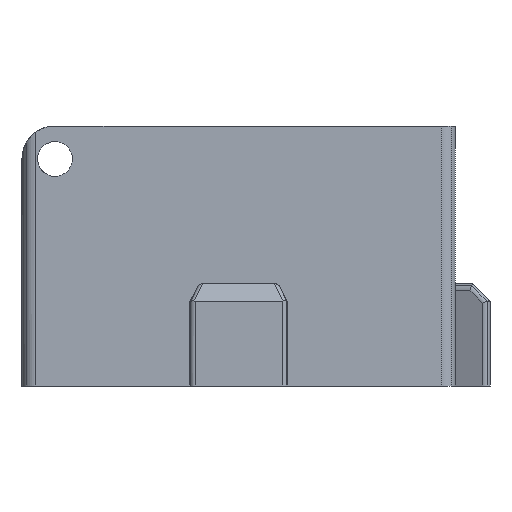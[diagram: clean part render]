
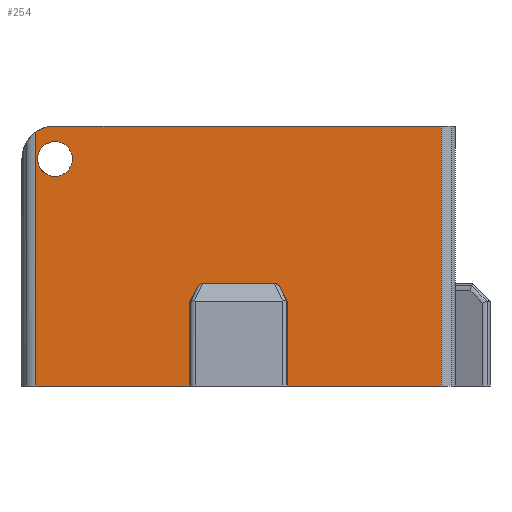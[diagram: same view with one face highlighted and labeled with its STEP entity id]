
A CAD part, front view. The second image highlights one B-rep face of the part: STEP entity #254.
In plain terms, the highlighted planar face has unit normal (0, -1, 0).
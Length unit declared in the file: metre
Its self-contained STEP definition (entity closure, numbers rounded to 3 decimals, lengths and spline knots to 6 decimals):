
#254=ADVANCED_FACE('28:75',(#719,#720),#721,.T.);
#719=FACE_OUTER_BOUND('',#1277,.T.);
#720=FACE_BOUND('',#1278,.T.);
#721=PLANE('',#1279);
#1277=EDGE_LOOP('',(#3041,#3042,#3043,#3044,#3045,#3046,#3047,#3048,#3049,#3050,#3051,#3052,#3053));
#1278=EDGE_LOOP('',(#3054,#3055));
#1279=AXIS2_PLACEMENT_3D('',#3056,#3057,#3058);
#3041=ORIENTED_EDGE('',*,*,#4270,.F.);
#3042=ORIENTED_EDGE('',*,*,#4357,.T.);
#3043=ORIENTED_EDGE('',*,*,#4358,.T.);
#3044=ORIENTED_EDGE('',*,*,#3818,.F.);
#3045=ORIENTED_EDGE('',*,*,#4296,.T.);
#3046=ORIENTED_EDGE('',*,*,#4264,.T.);
#3047=ORIENTED_EDGE('',*,*,#3832,.F.);
#3048=ORIENTED_EDGE('',*,*,#4359,.T.);
#3049=ORIENTED_EDGE('',*,*,#4349,.T.);
#3050=ORIENTED_EDGE('',*,*,#3914,.F.);
#3051=ORIENTED_EDGE('',*,*,#4263,.F.);
#3052=ORIENTED_EDGE('',*,*,#4262,.T.);
#3053=ORIENTED_EDGE('',*,*,#3908,.F.);
#3054=ORIENTED_EDGE('',*,*,#3920,.F.);
#3055=ORIENTED_EDGE('',*,*,#4259,.F.);
#3056=CARTESIAN_POINT('',(0.0,-0.03,0.0));
#3057=DIRECTION('',(0.0,-1.0,0.0));
#3058=DIRECTION('',(1.0,0.0,0.0));
#3818=EDGE_CURVE('28:609',#4689,#4691,#4692,.T.);
#3832=EDGE_CURVE('28:618',#4717,#4719,#4720,.T.);
#3908=EDGE_CURVE('28:600',#4865,#4868,#4869,.F.);
#3914=EDGE_CURVE('28:561',#4877,#4880,#4881,.F.);
#3920=EDGE_CURVE('28:627',#4890,#4886,#4892,.F.);
#4259=EDGE_CURVE('28:627',#4886,#4890,#5445,.F.);
#4262=EDGE_CURVE('28:573',#5447,#4868,#5449,.F.);
#4263=EDGE_CURVE('28:561',#5447,#4877,#5450,.F.);
#4264=EDGE_CURVE('28:615',#5451,#4719,#5452,.T.);
#4270=EDGE_CURVE('28:600',#5460,#4865,#5462,.F.);
#4296=EDGE_CURVE('28:612',#4689,#5451,#5498,.F.);
#4349=EDGE_CURVE('28:624',#5572,#4880,#5573,.T.);
#4357=EDGE_CURVE('28:603',#5460,#5582,#5584,.T.);
#4358=EDGE_CURVE('28:606',#5582,#4691,#5585,.T.);
#4359=EDGE_CURVE('28:621',#4717,#5572,#5586,.T.);
#4689=VERTEX_POINT('',#5983);
#4691=VERTEX_POINT('',#5985);
#4692=LINE('',#5986,#5987);
#4717=VERTEX_POINT('',#6017);
#4719=VERTEX_POINT('',#6019);
#4720=LINE('',#6020,#6021);
#4865=VERTEX_POINT('',#6314);
#4868=VERTEX_POINT('',#6318);
#4869=ELLIPSE('',#6319,0.000447,0.0004);
#4877=VERTEX_POINT('',#6340);
#4880=VERTEX_POINT('',#6344);
#4881=ELLIPSE('',#6345,0.000447,0.0004);
#4886=VERTEX_POINT('',#6360);
#4890=VERTEX_POINT('',#6365);
#4892=CIRCLE('',#6368,0.001);
#5445=CIRCLE('',#7321,0.001);
#5447=VERTEX_POINT('',#7323);
#5449=LINE('',#7326,#7327);
#5450=ELLIPSE('',#7328,0.000447,0.0004);
#5451=VERTEX_POINT('',#7329);
#5452=CIRCLE('',#7330,0.0019);
#5460=VERTEX_POINT('',#7373);
#5462=ELLIPSE('',#7376,0.000447,0.0004);
#5498=LINE('',#7433,#7434);
#5572=VERTEX_POINT('',#7548);
#5573=LINE('',#7549,#7550);
#5582=VERTEX_POINT('',#7563);
#5584=LINE('',#7566,#7567);
#5585=LINE('',#7568,#7569);
#5586=LINE('',#7570,#7571);
#5983=CARTESIAN_POINT('',(0.0117,-0.03,0.015));
#5985=CARTESIAN_POINT('',(0.0117,-0.03,0.0));
#5986=CARTESIAN_POINT('',(0.0117,-0.03,0.0));
#5987=VECTOR('',#8103,1.0);
#6017=CARTESIAN_POINT('',(-0.0117,-0.03,0.0));
#6019=CARTESIAN_POINT('',(-0.0117,-0.03,0.014649));
#6020=CARTESIAN_POINT('',(-0.0117,-0.03,0.0));
#6021=VECTOR('',#8133,1.0);
#6314=CARTESIAN_POINT('',(0.001869,-0.03,0.005783));
#6318=CARTESIAN_POINT('',(0.001553,-0.03,0.0059));
#6319=AXIS2_PLACEMENT_3D('',#8259,#8260,#8261);
#6340=CARTESIAN_POINT('',(-0.001869,-0.03,0.005783));
#6344=CARTESIAN_POINT('',(-0.002,-0.03,0.0055));
#6345=AXIS2_PLACEMENT_3D('',#8267,#8268,#8269);
#6360=CARTESIAN_POINT('',(-0.0116,-0.03,0.0131));
#6365=CARTESIAN_POINT('',(-0.0096,-0.03,0.0131));
#6368=AXIS2_PLACEMENT_3D('',#8276,#8277,#8278);
#7321=AXIS2_PLACEMENT_3D('',#8868,#8869,#8870);
#7323=CARTESIAN_POINT('',(-0.001553,-0.03,0.0059));
#7326=CARTESIAN_POINT('',(0.0,-0.03,0.0059));
#7327=VECTOR('',#8875,1.0);
#7328=AXIS2_PLACEMENT_3D('',#8876,#8877,#8878);
#7329=CARTESIAN_POINT('',(-0.0106,-0.03,0.015));
#7330=AXIS2_PLACEMENT_3D('',#8879,#8880,#8881);
#7373=CARTESIAN_POINT('',(0.002,-0.03,0.0055));
#7376=AXIS2_PLACEMENT_3D('',#8888,#8889,#8890);
#7433=CARTESIAN_POINT('',(0.0,-0.03,0.015));
#7434=VECTOR('',#8933,1.0);
#7548=CARTESIAN_POINT('',(-0.002,-0.03,0.0));
#7549=CARTESIAN_POINT('',(-0.002,-0.03,0.0));
#7550=VECTOR('',#9010,1.0);
#7563=CARTESIAN_POINT('',(0.002,-0.03,0.0));
#7566=CARTESIAN_POINT('',(0.002,-0.03,0.0));
#7567=VECTOR('',#9022,1.0);
#7568=CARTESIAN_POINT('',(-0.0125,-0.03,0.0));
#7569=VECTOR('',#9023,1.0);
#7570=CARTESIAN_POINT('',(-0.0125,-0.03,0.0));
#7571=VECTOR('',#9024,1.0);
#8103=DIRECTION('',(0.0,0.0,-1.0));
#8133=DIRECTION('',(0.0,0.0,1.0));
#8259=CARTESIAN_POINT('',(0.001553,-0.03,0.0055));
#8260=DIRECTION('',(-0.0,1.0,0.0));
#8261=DIRECTION('',(1.0,0.0,0.));
#8267=CARTESIAN_POINT('',(-0.001553,-0.03,0.0055));
#8268=DIRECTION('',(0.0,1.0,0.0));
#8269=DIRECTION('',(-1.0,0.0,0.));
#8276=CARTESIAN_POINT('',(-0.0106,-0.03,0.0131));
#8277=DIRECTION('',(0.0,1.0,0.0));
#8278=DIRECTION('',(-1.0,0.0,0.0));
#8868=CARTESIAN_POINT('',(-0.0106,-0.03,0.0131));
#8869=DIRECTION('',(0.0,1.0,0.0));
#8870=DIRECTION('',(-1.0,0.0,0.0));
#8875=DIRECTION('',(-1.0,-0.0,-0.0));
#8876=CARTESIAN_POINT('',(-0.001553,-0.03,0.0055));
#8877=DIRECTION('',(0.0,1.0,0.0));
#8878=DIRECTION('',(-1.0,0.0,0.));
#8879=CARTESIAN_POINT('',(-0.0106,-0.03,0.0131));
#8880=DIRECTION('',(0.0,-1.0,0.0));
#8881=DIRECTION('',(-1.0,0.0,0.0));
#8888=CARTESIAN_POINT('',(0.001553,-0.03,0.0055));
#8889=DIRECTION('',(-0.0,1.0,0.0));
#8890=DIRECTION('',(1.0,0.0,0.));
#8933=DIRECTION('',(1.0,0.0,0.0));
#9010=DIRECTION('',(0.0,0.0,1.0));
#9022=DIRECTION('',(0.0,0.0,-1.0));
#9023=DIRECTION('',(1.0,0.0,0.0));
#9024=DIRECTION('',(1.0,0.0,0.0));
